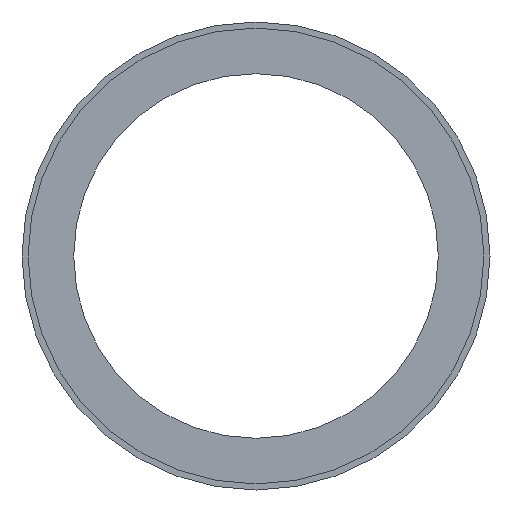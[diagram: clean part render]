
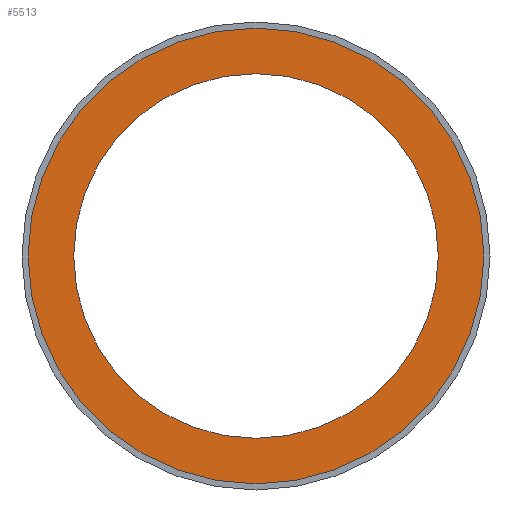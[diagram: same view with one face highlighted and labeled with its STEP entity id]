
A CAD part, front view. The second image highlights one B-rep face of the part: STEP entity #5513.
In plain terms, the highlighted planar face has unit normal (0, -1, 0).
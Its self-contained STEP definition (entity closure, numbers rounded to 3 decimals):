
#37 = AXIS2_PLACEMENT_3D ( 'NONE', #250, #6855, #2572 ) ;
#200 = VERTEX_POINT ( 'NONE', #6858 ) ;
#250 = CARTESIAN_POINT ( 'NONE',  ( 0., -43.5, 0. ) ) ;
#452 = EDGE_CURVE ( 'NONE', #6908, #200, #1408, .T. ) ;
#492 = PLANE ( 'NONE',  #2340 ) ;
#505 = ORIENTED_EDGE ( 'NONE', *, *, #6100, .T. ) ;
#1143 = EDGE_LOOP ( 'NONE', ( #2563, #4768 ) ) ;
#1408 = CIRCLE ( 'NONE', #7649, 150. ) ;
#1457 = CARTESIAN_POINT ( 'NONE',  ( 0., -43.5, 0. ) ) ;
#2340 = AXIS2_PLACEMENT_3D ( 'NONE', #3998, #5906, #6512 ) ;
#2403 = CARTESIAN_POINT ( 'NONE',  ( 0., -43.5, -150. ) ) ;
#2438 = FACE_OUTER_BOUND ( 'NONE', #6671, .T. ) ;
#2559 = ORIENTED_EDGE ( 'NONE', *, *, #3528, .T. ) ;
#2563 = ORIENTED_EDGE ( 'NONE', *, *, #452, .F. ) ;
#2572 = DIRECTION ( 'NONE',  ( 0., 0., -1. ) ) ;
#2775 = AXIS2_PLACEMENT_3D ( 'NONE', #7102, #2922, #4085 ) ;
#2922 = DIRECTION ( 'NONE',  ( 0., -1., 0. ) ) ;
#3059 = AXIS2_PLACEMENT_3D ( 'NONE', #1457, #6244, #5028 ) ;
#3148 = DIRECTION ( 'NONE',  ( 0., 0., -1. ) ) ;
#3267 = FACE_BOUND ( 'NONE', #1143, .T. ) ;
#3528 = EDGE_CURVE ( 'NONE', #7466, #3874, #7291, .T. ) ;
#3874 = VERTEX_POINT ( 'NONE', #7245 ) ;
#3998 = CARTESIAN_POINT ( 'NONE',  ( 0., -43.5, 150. ) ) ;
#4085 = DIRECTION ( 'NONE',  ( 0., 0., -1. ) ) ;
#4258 = CARTESIAN_POINT ( 'NONE',  ( 0., -43.5, 0. ) ) ;
#4768 = ORIENTED_EDGE ( 'NONE', *, *, #5076, .F. ) ;
#4812 = CARTESIAN_POINT ( 'NONE',  ( 0., -43.5, 187.5 ) ) ;
#5028 = DIRECTION ( 'NONE',  ( 0., 0., -1. ) ) ;
#5076 = EDGE_CURVE ( 'NONE', #200, #6908, #6206, .T. ) ;
#5513 = ADVANCED_FACE ( 'NONE', ( #3267, #2438 ), #492, .F. ) ;
#5906 = DIRECTION ( 'NONE',  ( 0., 1., 0. ) ) ;
#6100 = EDGE_CURVE ( 'NONE', #3874, #7466, #7042, .T. ) ;
#6146 = DIRECTION ( 'NONE',  ( 0., -1., 0. ) ) ;
#6206 = CIRCLE ( 'NONE', #2775, 150. ) ;
#6244 = DIRECTION ( 'NONE',  ( 0., -1., 0. ) ) ;
#6512 = DIRECTION ( 'NONE',  ( 0., 0., 1. ) ) ;
#6671 = EDGE_LOOP ( 'NONE', ( #505, #2559 ) ) ;
#6855 = DIRECTION ( 'NONE',  ( 0., -1., 0. ) ) ;
#6858 = CARTESIAN_POINT ( 'NONE',  ( 0., -43.5, 150. ) ) ;
#6908 = VERTEX_POINT ( 'NONE', #2403 ) ;
#7042 = CIRCLE ( 'NONE', #37, 187.5 ) ;
#7102 = CARTESIAN_POINT ( 'NONE',  ( 0., -43.5, 0. ) ) ;
#7245 = CARTESIAN_POINT ( 'NONE',  ( 0., -43.5, -187.5 ) ) ;
#7291 = CIRCLE ( 'NONE', #3059, 187.5 ) ;
#7466 = VERTEX_POINT ( 'NONE', #4812 ) ;
#7649 = AXIS2_PLACEMENT_3D ( 'NONE', #4258, #6146, #3148 ) ;
